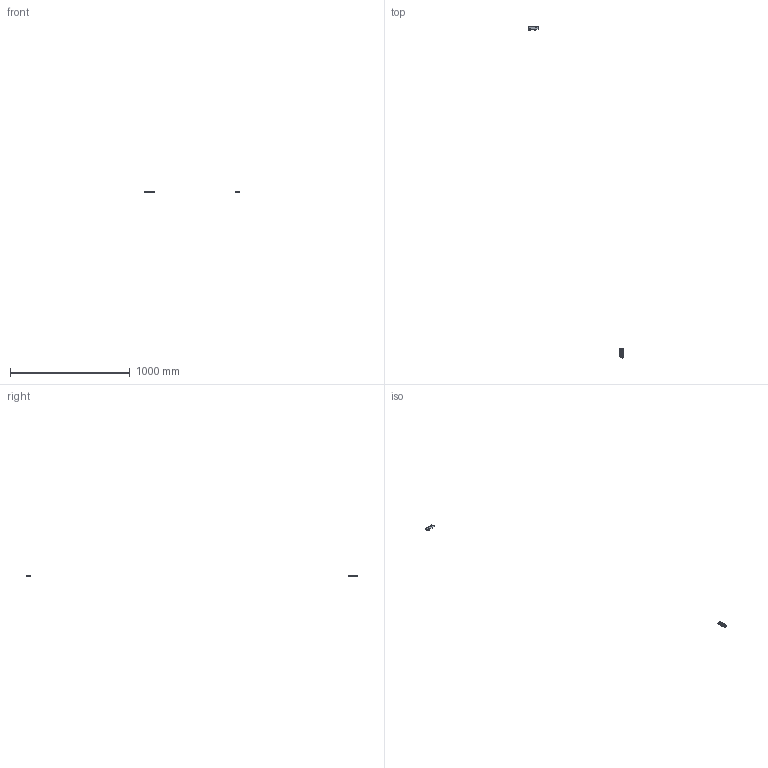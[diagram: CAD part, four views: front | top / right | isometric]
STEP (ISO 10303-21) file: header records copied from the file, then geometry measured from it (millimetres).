
FILE_DESCRIPTION (( 'STEP AP214' ), '1' );
FILE_NAME ('VPR-2.5-QT-2P.STEP', '2026-03-30T14:18:56', ( '' ), ( '' ), 'SwSTEP 2.0', 'SolidWorks 2022', '' );
FILE_SCHEMA (( 'AUTOMOTIVE_DESIGN' ));
Length unit declared in the file: millimetre
Products named in the file (3): RPV 2.5-QUATTRO-2P.stp; VPR-2.5-QT-2P; RPV 2.5-QUATTRO-2P waike.sldasm-Part-2.stp
Assembly tree (2 placements, depth 2):
  VPR-2.5-QT-2P
    RPV 2.5-QUATTRO-2P.stp
    RPV 2.5-QUATTRO-2P waike.sldasm-Part-2.stp
Bounding box: 792.5 x 2777.31 x 5.15 mm (x, y, z)
Volume: 15692.5 mm3; surface area: 17508.7 mm2
Topology: 2 solids, 3 shells, 1674 faces, 4848 edges, 3194 vertices
Faces by surface type: plane 996, cylinder 630, cone 42, bspline 6
Entity records: 55580 total; most frequent: CARTESIAN_POINT 10324, ORIENTED_EDGE 9690, DIRECTION 9343, EDGE_CURVE 4845, VECTOR 3435, LINE 3435, VERTEX_POINT 3194, AXIS2_PLACEMENT_3D 2954
